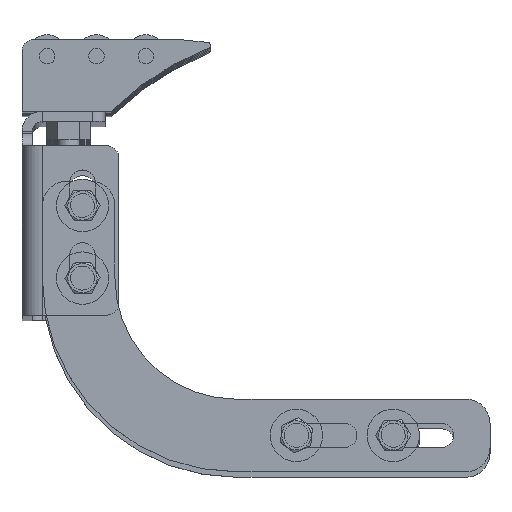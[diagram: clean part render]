
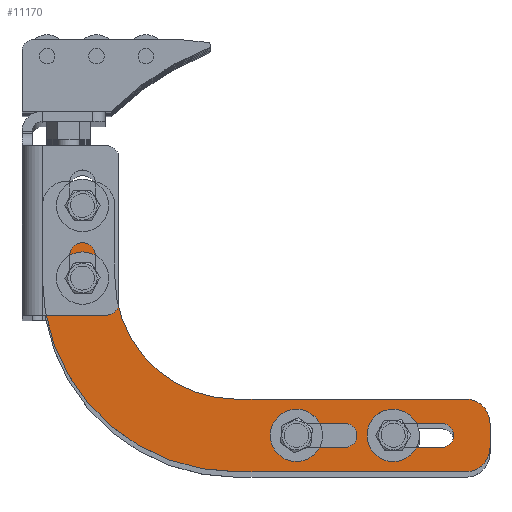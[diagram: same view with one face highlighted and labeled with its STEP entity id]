
A CAD part, top view. The second image highlights one B-rep face of the part: STEP entity #11170.
In plain terms, the highlighted planar face has unit normal (0, 0, 1) as drawn and (0, 0, -1) by its records, which use the part's own axes.
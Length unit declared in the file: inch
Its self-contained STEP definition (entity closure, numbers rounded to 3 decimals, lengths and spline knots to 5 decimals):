
#10616=DIRECTION('',(0.,-1.,0.));
#10617=VECTOR('',#10616,0.75);
#10618=CARTESIAN_POINT('',(0.,2.75,-0.25));
#10619=LINE('',#10618,#10617);
#10620=CARTESIAN_POINT('',(-0.25,2.75,-0.25));
#10621=DIRECTION('',(0.,0.,-1.));
#10622=DIRECTION('',(0.,1.,0.));
#10623=AXIS2_PLACEMENT_3D('',#10620,#10621,#10622);
#10625=DIRECTION('',(1.,0.,0.));
#10626=VECTOR('',#10625,0.25);
#10627=CARTESIAN_POINT('',(-0.5,3.,-0.25));
#10628=LINE('',#10627,#10626);
#10629=CARTESIAN_POINT('',(-0.5,2.75,-0.25));
#10630=DIRECTION('',(0.,0.,-1.));
#10631=DIRECTION('',(-1.,0.,0.));
#10632=AXIS2_PLACEMENT_3D('',#10629,#10630,#10631);
#10634=DIRECTION('',(0.,1.,0.));
#10635=VECTOR('',#10634,0.75);
#10636=CARTESIAN_POINT('',(-0.75,2.,-0.25));
#10637=LINE('',#10636,#10635);
#10638=CARTESIAN_POINT('',(-2.,2.,-0.25));
#10639=DIRECTION('',(0.,0.,1.));
#10640=DIRECTION('',(0.,-1.,0.));
#10641=AXIS2_PLACEMENT_3D('',#10638,#10639,#10640);
#10643=DIRECTION('',(1.,0.,0.));
#10644=VECTOR('',#10643,2.375);
#10645=CARTESIAN_POINT('',(-4.375,0.75,-0.25));
#10646=LINE('',#10645,#10644);
#10647=CARTESIAN_POINT('',(-4.375,0.5,-0.25));
#10648=DIRECTION('',(0.,0.,-1.));
#10649=DIRECTION('',(-1.,0.,0.));
#10650=AXIS2_PLACEMENT_3D('',#10647,#10648,#10649);
#10652=DIRECTION('',(0.,1.,0.));
#10653=VECTOR('',#10652,0.25);
#10654=CARTESIAN_POINT('',(-4.625,0.25,-0.25));
#10655=LINE('',#10654,#10653);
#10656=CARTESIAN_POINT('',(-4.375,0.25,-0.25));
#10657=DIRECTION('',(0.,0.,-1.));
#10658=DIRECTION('',(0.,-1.,0.));
#10659=AXIS2_PLACEMENT_3D('',#10656,#10657,#10658);
#10661=DIRECTION('',(-1.,0.,0.));
#10662=VECTOR('',#10661,2.375);
#10663=CARTESIAN_POINT('',(-2.,0.,-0.25));
#10664=LINE('',#10663,#10662);
#10665=CARTESIAN_POINT('',(-2.,2.,-0.25));
#10666=DIRECTION('',(0.,0.,-1.));
#10667=DIRECTION('',(1.,0.,0.));
#10668=AXIS2_PLACEMENT_3D('',#10665,#10666,#10667);
#10670=CARTESIAN_POINT('',(-0.4145,2.,-0.25));
#10671=DIRECTION('',(0.,0.,1.));
#10672=DIRECTION('',(1.,0.,0.));
#10673=AXIS2_PLACEMENT_3D('',#10670,#10671,#10672);
#10675=CARTESIAN_POINT('',(-0.4145,2.,-0.25));
#10676=DIRECTION('',(0.,0.,1.));
#10677=DIRECTION('',(-1.,0.,0.));
#10678=AXIS2_PLACEMENT_3D('',#10675,#10676,#10677);
#10680=CARTESIAN_POINT('',(-0.4145,2.75,-0.25));
#10681=DIRECTION('',(0.,0.,1.));
#10682=DIRECTION('',(1.,0.,0.));
#10683=AXIS2_PLACEMENT_3D('',#10680,#10681,#10682);
#10685=CARTESIAN_POINT('',(-0.4145,2.75,-0.25));
#10686=DIRECTION('',(0.,0.,1.));
#10687=DIRECTION('',(-1.,0.,0.));
#10688=AXIS2_PLACEMENT_3D('',#10685,#10686,#10687);
#10690=CARTESIAN_POINT('',(-2.625,0.375,-0.25));
#10691=DIRECTION('',(0.,0.,1.));
#10692=DIRECTION('',(1.,0.,0.));
#10693=AXIS2_PLACEMENT_3D('',#10690,#10691,#10692);
#10695=CARTESIAN_POINT('',(-2.625,0.375,-0.25));
#10696=DIRECTION('',(0.,0.,1.));
#10697=DIRECTION('',(0.,-1.,0.));
#10698=AXIS2_PLACEMENT_3D('',#10695,#10696,#10697);
#10700=CARTESIAN_POINT('',(-3.125,0.375,-0.25));
#10701=DIRECTION('',(0.,0.,1.));
#10702=DIRECTION('',(-1.,0.,0.));
#10703=AXIS2_PLACEMENT_3D('',#10700,#10701,#10702);
#10705=CARTESIAN_POINT('',(-3.125,0.375,-0.25));
#10706=DIRECTION('',(0.,0.,1.));
#10707=DIRECTION('',(0.,1.,0.));
#10708=AXIS2_PLACEMENT_3D('',#10705,#10706,#10707);
#10710=CARTESIAN_POINT('',(-3.625,0.375,-0.25));
#10711=DIRECTION('',(0.,0.,1.));
#10712=DIRECTION('',(1.,0.,0.));
#10713=AXIS2_PLACEMENT_3D('',#10710,#10711,#10712);
#10715=CARTESIAN_POINT('',(-3.625,0.375,-0.25));
#10716=DIRECTION('',(0.,0.,1.));
#10717=DIRECTION('',(0.,-1.,0.));
#10718=AXIS2_PLACEMENT_3D('',#10715,#10716,#10717);
#10720=CARTESIAN_POINT('',(-4.125,0.375,-0.25));
#10721=DIRECTION('',(0.,0.,1.));
#10722=DIRECTION('',(-1.,0.,0.));
#10723=AXIS2_PLACEMENT_3D('',#10720,#10721,#10722);
#10725=CARTESIAN_POINT('',(-4.125,0.375,-0.25));
#10726=DIRECTION('',(0.,0.,1.));
#10727=DIRECTION('',(0.,1.,0.));
#10728=AXIS2_PLACEMENT_3D('',#10725,#10726,#10727);
#10924=DIRECTION('',(1.,0.,0.));
#10925=VECTOR('',#10924,0.5);
#10926=CARTESIAN_POINT('',(-3.125,0.5,-0.25));
#10927=LINE('',#10926,#10925);
#10940=DIRECTION('',(-1.,0.,0.));
#10941=VECTOR('',#10940,0.5);
#10942=CARTESIAN_POINT('',(-2.625,0.25,-0.25));
#10943=LINE('',#10942,#10941);
#10952=DIRECTION('',(1.,0.,0.));
#10953=VECTOR('',#10952,0.5);
#10954=CARTESIAN_POINT('',(-4.125,0.5,-0.25));
#10955=LINE('',#10954,#10953);
#10968=DIRECTION('',(-1.,0.,0.));
#10969=VECTOR('',#10968,0.5);
#10970=CARTESIAN_POINT('',(-3.625,0.25,-0.25));
#10971=LINE('',#10970,#10969);
#10978=CARTESIAN_POINT('',(-4.625,0.5,-0.25));
#10979=CARTESIAN_POINT('',(-4.375,0.75,-0.25));
#10980=VERTEX_POINT('',#10978);
#10981=VERTEX_POINT('',#10979);
#10982=CARTESIAN_POINT('',(-0.51293,2.75,-0.25));
#10983=CARTESIAN_POINT('',(-0.31607,2.75,-0.25));
#10984=VERTEX_POINT('',#10982);
#10985=VERTEX_POINT('',#10983);
#10989=CARTESIAN_POINT('',(-4.625,0.25,-0.25));
#10991=VERTEX_POINT('',#10989);
#10996=CARTESIAN_POINT('',(-0.75,2.75,-0.25));
#10998=VERTEX_POINT('',#10996);
#11006=CARTESIAN_POINT('',(-4.125,0.5,-0.25));
#11007=CARTESIAN_POINT('',(-3.625,0.5,-0.25));
#11008=VERTEX_POINT('',#11006);
#11009=VERTEX_POINT('',#11007);
#11010=CARTESIAN_POINT('',(-0.5,3.,-0.25));
#11011=CARTESIAN_POINT('',(-0.25,3.,-0.25));
#11012=VERTEX_POINT('',#11010);
#11013=VERTEX_POINT('',#11011);
#11020=CARTESIAN_POINT('',(-4.25,0.375,-0.25));
#11021=VERTEX_POINT('',#11020);
#11022=CARTESIAN_POINT('',(-4.125,0.25,-0.25));
#11023=VERTEX_POINT('',#11022);
#11024=CARTESIAN_POINT('',(-2.,0.,-0.25));
#11025=CARTESIAN_POINT('',(-4.375,0.,-0.25));
#11026=VERTEX_POINT('',#11024);
#11027=VERTEX_POINT('',#11025);
#11029=CARTESIAN_POINT('',(-3.125,0.25,-0.25));
#11031=VERTEX_POINT('',#11029);
#11036=CARTESIAN_POINT('',(-2.625,0.25,-0.25));
#11038=VERTEX_POINT('',#11036);
#11040=CARTESIAN_POINT('',(-2.,0.75,-0.25));
#11042=VERTEX_POINT('',#11040);
#11050=CARTESIAN_POINT('',(-2.5,0.375,-0.25));
#11051=VERTEX_POINT('',#11050);
#11052=CARTESIAN_POINT('',(-0.75,2.,-0.25));
#11053=VERTEX_POINT('',#11052);
#11054=CARTESIAN_POINT('',(-3.625,0.25,-0.25));
#11055=VERTEX_POINT('',#11054);
#11058=CARTESIAN_POINT('',(-2.625,0.5,-0.25));
#11059=VERTEX_POINT('',#11058);
#11068=CARTESIAN_POINT('',(0.,2.,-0.25));
#11069=VERTEX_POINT('',#11068);
#11070=CARTESIAN_POINT('',(-3.125,0.5,-0.25));
#11071=CARTESIAN_POINT('',(-3.25,0.375,-0.25));
#11072=VERTEX_POINT('',#11070);
#11073=VERTEX_POINT('',#11071);
#11075=CARTESIAN_POINT('',(-3.5,0.375,-0.25));
#11077=VERTEX_POINT('',#11075);
#11078=CARTESIAN_POINT('',(-0.31607,2.,-0.25));
#11079=VERTEX_POINT('',#11078);
#11080=CARTESIAN_POINT('',(-0.51293,2.,-0.25));
#11081=VERTEX_POINT('',#11080);
#11082=CARTESIAN_POINT('',(0.,2.75,-0.25));
#11083=VERTEX_POINT('',#11082);
#11100=CARTESIAN_POINT('',(0.,0.,-0.25));
#11101=DIRECTION('',(0.,0.,1.));
#11102=DIRECTION('',(1.,0.,0.));
#11103=AXIS2_PLACEMENT_3D('',#11100,#11101,#11102);
#11104=PLANE('',#11103);
#11106=ORIENTED_EDGE('',*,*,#11105,.F.);
#11108=ORIENTED_EDGE('',*,*,#11107,.F.);
#11110=ORIENTED_EDGE('',*,*,#11109,.F.);
#11112=ORIENTED_EDGE('',*,*,#11111,.F.);
#11114=ORIENTED_EDGE('',*,*,#11113,.F.);
#11115=ORIENTED_EDGE('',*,*,#11089,.F.);
#11117=ORIENTED_EDGE('',*,*,#11116,.F.);
#11119=ORIENTED_EDGE('',*,*,#11118,.F.);
#11121=ORIENTED_EDGE('',*,*,#11120,.F.);
#11123=ORIENTED_EDGE('',*,*,#11122,.F.);
#11125=ORIENTED_EDGE('',*,*,#11124,.F.);
#11127=ORIENTED_EDGE('',*,*,#11126,.F.);
#11128=EDGE_LOOP('',(#11106,#11108,#11110,#11112,#11114,#11115,#11117,#11119,
#11121,#11123,#11125,#11127));
#11129=FACE_OUTER_BOUND('',#11128,.F.);
#11131=ORIENTED_EDGE('',*,*,#11130,.F.);
#11133=ORIENTED_EDGE('',*,*,#11132,.F.);
#11134=EDGE_LOOP('',(#11131,#11133));
#11135=FACE_BOUND('',#11134,.F.);
#11137=ORIENTED_EDGE('',*,*,#11136,.F.);
#11139=ORIENTED_EDGE('',*,*,#11138,.F.);
#11140=EDGE_LOOP('',(#11137,#11139));
#11141=FACE_BOUND('',#11140,.F.);
#11143=ORIENTED_EDGE('',*,*,#11142,.T.);
#11145=ORIENTED_EDGE('',*,*,#11144,.F.);
#11147=ORIENTED_EDGE('',*,*,#11146,.F.);
#11149=ORIENTED_EDGE('',*,*,#11148,.T.);
#11151=ORIENTED_EDGE('',*,*,#11150,.F.);
#11153=ORIENTED_EDGE('',*,*,#11152,.F.);
#11154=EDGE_LOOP('',(#11143,#11145,#11147,#11149,#11151,#11153));
#11155=FACE_BOUND('',#11154,.F.);
#11157=ORIENTED_EDGE('',*,*,#11156,.T.);
#11159=ORIENTED_EDGE('',*,*,#11158,.F.);
#11161=ORIENTED_EDGE('',*,*,#11160,.F.);
#11163=ORIENTED_EDGE('',*,*,#11162,.T.);
#11165=ORIENTED_EDGE('',*,*,#11164,.F.);
#11167=ORIENTED_EDGE('',*,*,#11166,.F.);
#11168=EDGE_LOOP('',(#11157,#11159,#11161,#11163,#11165,#11167));
#11169=FACE_BOUND('',#11168,.F.);
#10624=CIRCLE('',#10623,0.25);
#10633=CIRCLE('',#10632,0.25);
#10642=CIRCLE('',#10641,1.25);
#10651=CIRCLE('',#10650,0.25);
#10660=CIRCLE('',#10659,0.25);
#10669=CIRCLE('',#10668,2.);
#10674=CIRCLE('',#10673,0.09843);
#10679=CIRCLE('',#10678,0.09843);
#10684=CIRCLE('',#10683,0.09843);
#10689=CIRCLE('',#10688,0.09843);
#10694=CIRCLE('',#10693,0.125);
#10699=CIRCLE('',#10698,0.125);
#10704=CIRCLE('',#10703,0.125);
#10709=CIRCLE('',#10708,0.125);
#10714=CIRCLE('',#10713,0.125);
#10719=CIRCLE('',#10718,0.125);
#10724=CIRCLE('',#10723,0.125);
#10729=CIRCLE('',#10728,0.125);
#11089=EDGE_CURVE('',#11042,#11053,#10642,.T.);
#11105=EDGE_CURVE('',#11083,#11069,#10619,.T.);
#11107=EDGE_CURVE('',#11013,#11083,#10624,.T.);
#11109=EDGE_CURVE('',#11012,#11013,#10628,.T.);
#11111=EDGE_CURVE('',#10998,#11012,#10633,.T.);
#11113=EDGE_CURVE('',#11053,#10998,#10637,.T.);
#11116=EDGE_CURVE('',#10981,#11042,#10646,.T.);
#11118=EDGE_CURVE('',#10980,#10981,#10651,.T.);
#11120=EDGE_CURVE('',#10991,#10980,#10655,.T.);
#11122=EDGE_CURVE('',#11027,#10991,#10660,.T.);
#11124=EDGE_CURVE('',#11026,#11027,#10664,.T.);
#11126=EDGE_CURVE('',#11069,#11026,#10669,.T.);
#11130=EDGE_CURVE('',#11079,#11081,#10674,.T.);
#11132=EDGE_CURVE('',#11081,#11079,#10679,.T.);
#11136=EDGE_CURVE('',#10985,#10984,#10684,.T.);
#11138=EDGE_CURVE('',#10984,#10985,#10689,.T.);
#11142=EDGE_CURVE('',#11072,#11059,#10927,.T.);
#11144=EDGE_CURVE('',#11051,#11059,#10694,.T.);
#11146=EDGE_CURVE('',#11038,#11051,#10699,.T.);
#11148=EDGE_CURVE('',#11038,#11031,#10943,.T.);
#11150=EDGE_CURVE('',#11073,#11031,#10704,.T.);
#11152=EDGE_CURVE('',#11072,#11073,#10709,.T.);
#11156=EDGE_CURVE('',#11008,#11009,#10955,.T.);
#11158=EDGE_CURVE('',#11077,#11009,#10714,.T.);
#11160=EDGE_CURVE('',#11055,#11077,#10719,.T.);
#11162=EDGE_CURVE('',#11055,#11023,#10971,.T.);
#11164=EDGE_CURVE('',#11021,#11023,#10724,.T.);
#11166=EDGE_CURVE('',#11008,#11021,#10729,.T.);
#11170=ADVANCED_FACE('',(#11129,#11135,#11141,#11155,#11169),#11104,.F.);
